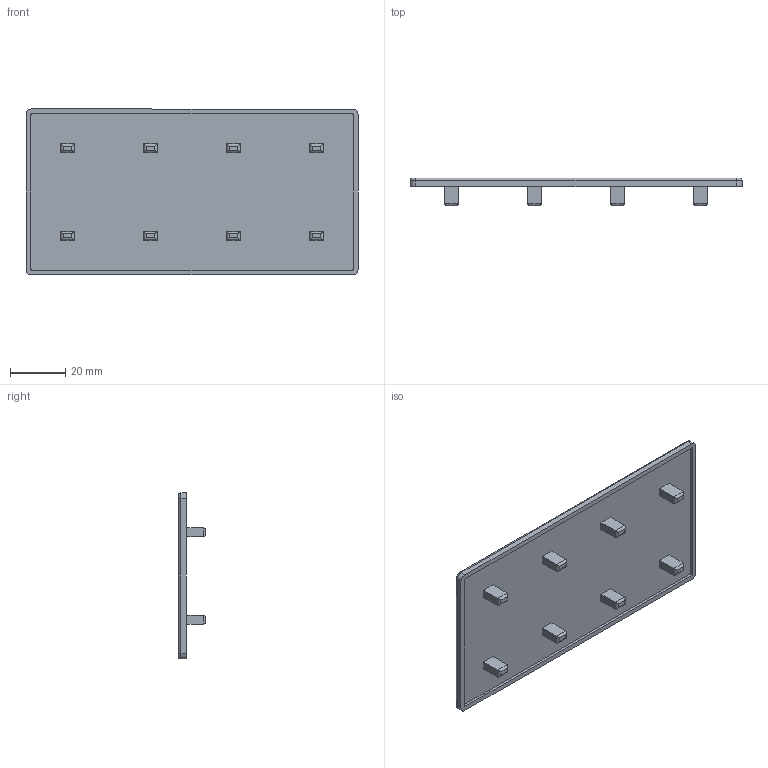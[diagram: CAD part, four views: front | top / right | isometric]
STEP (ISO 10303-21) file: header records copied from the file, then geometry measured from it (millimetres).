
FILE_DESCRIPTION (( 'STEP AP214' ), '1' );
FILE_NAME ('J3C612.step', '2017-05-24T07:38:32', ( 'admin' ), ( '' ), 'SwSTEP 2.0', 'SolidWorks 2014', '' );
FILE_SCHEMA (( 'AUTOMOTIVE_DESIGN' ));
Length unit declared in the file: millimetre
Products named in the file (1): J3C612
Bounding box: 120 x 10 x 60 mm (x, y, z)
Volume: 15894.1 mm3; surface area: 16614.9 mm2
Topology: 1 solids, 1 shells, 99 faces, 224 edges, 136 vertices
Faces by surface type: plane 51, cylinder 44, torus 4
Entity records: 2720 total; most frequent: CARTESIAN_POINT 556, ORIENTED_EDGE 448, DIRECTION 420, EDGE_CURVE 224, VECTOR 164, LINE 164, VERTEX_POINT 136, AXIS2_PLACEMENT_3D 128
